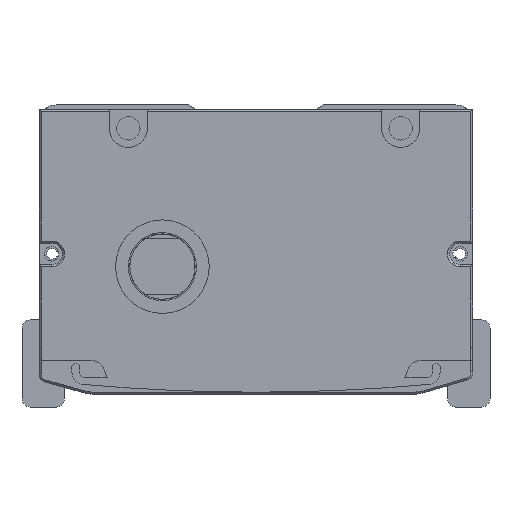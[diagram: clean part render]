
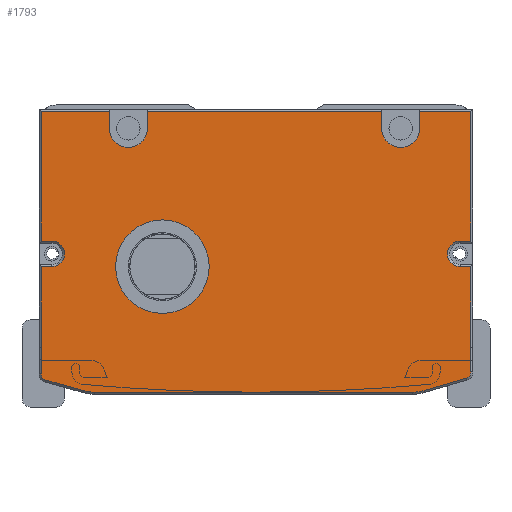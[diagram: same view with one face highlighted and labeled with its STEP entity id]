
A CAD part, front view. The second image highlights one B-rep face of the part: STEP entity #1793.
In plain terms, the highlighted planar face has unit normal (0, -1, 0).
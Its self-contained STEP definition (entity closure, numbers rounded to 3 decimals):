
#1050=FACE_BOUND('',#3703,.T.);
#1051=FACE_BOUND('',#3704,.T.);
#1793=ADVANCED_FACE('',(#1050,#1051),#2526,.F.);
#2526=PLANE('',#14938);
#3703=EDGE_LOOP('',(#6699));
#3704=EDGE_LOOP('',(#6700,#6701,#6702,#6703,#6704,#6705,#6706,#6707,#6708,
#6709,#6710,#6711,#6712,#6713,#6714,#6715,#6716,#6717,#6718,#6719,#6720,
#6721,#6722,#6723,#6724,#6725,#6726,#6727));
#4757=CIRCLE('',#14849,3.);
#4760=CIRCLE('',#14857,3.);
#4763=CIRCLE('',#14869,1.5);
#4765=CIRCLE('',#14873,9.5);
#4767=CIRCLE('',#14877,9.5);
#4769=CIRCLE('',#14881,1.5);
#4774=CIRCLE('',#14896,4.5);
#4778=CIRCLE('',#14902,4.5);
#4779=CIRCLE('',#14911,11.);
#6699=ORIENTED_EDGE('',*,*,#11324,.F.);
#6700=ORIENTED_EDGE('',*,*,#11218,.T.);
#6701=ORIENTED_EDGE('',*,*,#11114,.T.);
#6702=ORIENTED_EDGE('',*,*,#11305,.T.);
#6703=ORIENTED_EDGE('',*,*,#11118,.T.);
#6704=ORIENTED_EDGE('',*,*,#11353,.T.);
#6705=ORIENTED_EDGE('',*,*,#11124,.T.);
#6706=ORIENTED_EDGE('',*,*,#11301,.T.);
#6707=ORIENTED_EDGE('',*,*,#11128,.T.);
#6708=ORIENTED_EDGE('',*,*,#11354,.T.);
#6709=ORIENTED_EDGE('',*,*,#11222,.T.);
#6710=ORIENTED_EDGE('',*,*,#11228,.T.);
#6711=ORIENTED_EDGE('',*,*,#11231,.T.);
#6712=ORIENTED_EDGE('',*,*,#11234,.T.);
#6713=ORIENTED_EDGE('',*,*,#11236,.T.);
#6714=ORIENTED_EDGE('',*,*,#11266,.T.);
#6715=ORIENTED_EDGE('',*,*,#11270,.T.);
#6716=ORIENTED_EDGE('',*,*,#11273,.T.);
#6717=ORIENTED_EDGE('',*,*,#11276,.T.);
#6718=ORIENTED_EDGE('',*,*,#11279,.T.);
#6719=ORIENTED_EDGE('',*,*,#11282,.T.);
#6720=ORIENTED_EDGE('',*,*,#11285,.T.);
#6721=ORIENTED_EDGE('',*,*,#11287,.T.);
#6722=ORIENTED_EDGE('',*,*,#11264,.T.);
#6723=ORIENTED_EDGE('',*,*,#11254,.T.);
#6724=ORIENTED_EDGE('',*,*,#11251,.T.);
#6725=ORIENTED_EDGE('',*,*,#11248,.T.);
#6726=ORIENTED_EDGE('',*,*,#11245,.T.);
#6727=ORIENTED_EDGE('',*,*,#11240,.T.);
#9613=VERTEX_POINT('',#22049);
#9614=VERTEX_POINT('',#22051);
#9617=VERTEX_POINT('',#22058);
#9618=VERTEX_POINT('',#22060);
#9623=VERTEX_POINT('',#22071);
#9624=VERTEX_POINT('',#22073);
#9627=VERTEX_POINT('',#22080);
#9628=VERTEX_POINT('',#22082);
#9686=VERTEX_POINT('',#22268);
#9689=VERTEX_POINT('',#22276);
#9690=VERTEX_POINT('',#22277);
#9695=VERTEX_POINT('',#22288);
#9697=VERTEX_POINT('',#22294);
#9698=VERTEX_POINT('',#22299);
#9700=VERTEX_POINT('',#22305);
#9703=VERTEX_POINT('',#22313);
#9705=VERTEX_POINT('',#22319);
#9707=VERTEX_POINT('',#22325);
#9709=VERTEX_POINT('',#22331);
#9711=VERTEX_POINT('',#22337);
#9718=VERTEX_POINT('',#22361);
#9719=VERTEX_POINT('',#22365);
#9722=VERTEX_POINT('',#22372);
#9724=VERTEX_POINT('',#22378);
#9726=VERTEX_POINT('',#22384);
#9728=VERTEX_POINT('',#22390);
#9730=VERTEX_POINT('',#22396);
#9732=VERTEX_POINT('',#22402);
#9744=VERTEX_POINT('',#22475);
#11114=EDGE_CURVE('',#9614,#9613,#12787,.T.);
#11118=EDGE_CURVE('',#9618,#9617,#12791,.T.);
#11124=EDGE_CURVE('',#9624,#9623,#12797,.T.);
#11128=EDGE_CURVE('',#9628,#9627,#12801,.T.);
#11218=EDGE_CURVE('',#9686,#9614,#12874,.T.);
#11222=EDGE_CURVE('',#9689,#9690,#12878,.T.);
#11228=EDGE_CURVE('',#9690,#9695,#12884,.T.);
#11231=EDGE_CURVE('',#9695,#9697,#4757,.T.);
#11234=EDGE_CURVE('',#9697,#9698,#12888,.T.);
#11236=EDGE_CURVE('',#9698,#9700,#12890,.T.);
#11240=EDGE_CURVE('',#9703,#9686,#12894,.T.);
#11245=EDGE_CURVE('',#9705,#9703,#12899,.T.);
#11248=EDGE_CURVE('',#9707,#9705,#4760,.T.);
#11251=EDGE_CURVE('',#9709,#9707,#12903,.T.);
#11254=EDGE_CURVE('',#9711,#9709,#12906,.T.);
#11264=EDGE_CURVE('',#9718,#9711,#12914,.T.);
#11266=EDGE_CURVE('',#9700,#9719,#12916,.T.);
#11270=EDGE_CURVE('',#9719,#9722,#4763,.T.);
#11273=EDGE_CURVE('',#9722,#9724,#12921,.T.);
#11276=EDGE_CURVE('',#9724,#9726,#4765,.T.);
#11279=EDGE_CURVE('',#9726,#9728,#12925,.T.);
#11282=EDGE_CURVE('',#9728,#9730,#4767,.T.);
#11285=EDGE_CURVE('',#9730,#9732,#12929,.T.);
#11287=EDGE_CURVE('',#9732,#9718,#4769,.T.);
#11301=EDGE_CURVE('',#9623,#9628,#4774,.T.);
#11305=EDGE_CURVE('',#9613,#9618,#4778,.T.);
#11324=EDGE_CURVE('',#9744,#9744,#4779,.T.);
#11353=EDGE_CURVE('',#9617,#9624,#12980,.T.);
#11354=EDGE_CURVE('',#9627,#9689,#12981,.T.);
#12787=LINE('',#22050,#13731);
#12791=LINE('',#22059,#13735);
#12797=LINE('',#22072,#13741);
#12801=LINE('',#22081,#13745);
#12874=LINE('',#22267,#13818);
#12878=LINE('',#22275,#13822);
#12884=LINE('',#22289,#13828);
#12888=LINE('',#22301,#13832);
#12890=LINE('',#22304,#13834);
#12894=LINE('',#22312,#13838);
#12899=LINE('',#22322,#13843);
#12903=LINE('',#22334,#13847);
#12906=LINE('',#22340,#13850);
#12914=LINE('',#22360,#13858);
#12916=LINE('',#22364,#13860);
#12921=LINE('',#22379,#13865);
#12925=LINE('',#22391,#13869);
#12929=LINE('',#22403,#13873);
#12980=LINE('',#22537,#13924);
#12981=LINE('',#22538,#13925);
#13731=VECTOR('',#17131,1.);
#13735=VECTOR('',#17137,1.);
#13741=VECTOR('',#17145,1.);
#13745=VECTOR('',#17151,1.);
#13818=VECTOR('',#17318,1.);
#13822=VECTOR('',#17324,1.);
#13828=VECTOR('',#17332,1.);
#13832=VECTOR('',#17344,1.);
#13834=VECTOR('',#17348,1.);
#13838=VECTOR('',#17354,1.);
#13843=VECTOR('',#17361,1.);
#13847=VECTOR('',#17373,1.);
#13850=VECTOR('',#17378,1.);
#13858=VECTOR('',#17400,1.);
#13860=VECTOR('',#17404,1.);
#13865=VECTOR('',#17417,1.);
#13869=VECTOR('',#17429,1.);
#13873=VECTOR('',#17441,1.);
#13924=VECTOR('',#17608,1.);
#13925=VECTOR('',#17609,1.);
#14849=AXIS2_PLACEMENT_3D('',#22295,#17337,#17338);
#14857=AXIS2_PLACEMENT_3D('',#22328,#17367,#17368);
#14869=AXIS2_PLACEMENT_3D('',#22373,#17410,#17411);
#14873=AXIS2_PLACEMENT_3D('',#22385,#17422,#17423);
#14877=AXIS2_PLACEMENT_3D('',#22397,#17434,#17435);
#14881=AXIS2_PLACEMENT_3D('',#22406,#17445,#17446);
#14896=AXIS2_PLACEMENT_3D('',#22432,#17484,#17485);
#14902=AXIS2_PLACEMENT_3D('',#22440,#17496,#17497);
#14911=AXIS2_PLACEMENT_3D('',#22474,#17532,#17533);
#14938=AXIS2_PLACEMENT_3D('',#22539,#17610,#17611);
#17131=DIRECTION('',(0.,0.,-1.));
#17137=DIRECTION('',(0.,0.,1.));
#17145=DIRECTION('',(0.,0.,-1.));
#17151=DIRECTION('',(0.,0.,1.));
#17318=DIRECTION('',(-1.,0.,0.));
#17324=DIRECTION('',(0.,0.,-1.));
#17332=DIRECTION('',(1.,0.,0.));
#17337=DIRECTION('',(0.,1.,0.));
#17338=DIRECTION('',(0.,0.,1.));
#17344=DIRECTION('',(-1.,0.,0.));
#17348=DIRECTION('',(0.,0.,-1.));
#17354=DIRECTION('',(0.,0.,1.));
#17361=DIRECTION('',(1.,0.,0.));
#17367=DIRECTION('',(0.,1.,0.));
#17368=DIRECTION('',(0.,0.,1.));
#17373=DIRECTION('',(-1.,0.,0.));
#17378=DIRECTION('',(0.,0.,1.));
#17400=DIRECTION('',(0.,0.,1.));
#17404=DIRECTION('',(0.,0.,-1.));
#17410=DIRECTION('',(0.,-1.,0.));
#17411=DIRECTION('',(0.,0.,1.));
#17417=DIRECTION('',(0.963,0.,-0.269));
#17422=DIRECTION('',(0.,-1.,0.));
#17423=DIRECTION('',(0.,0.,1.));
#17429=DIRECTION('',(1.,0.,0.));
#17434=DIRECTION('',(0.,-1.,0.));
#17435=DIRECTION('',(0.,0.,1.));
#17441=DIRECTION('',(0.959,0.,0.282));
#17445=DIRECTION('',(0.,-1.,0.));
#17446=DIRECTION('',(0.,0.,1.));
#17484=DIRECTION('',(0.,1.,0.));
#17485=DIRECTION('',(0.,0.,1.));
#17496=DIRECTION('',(0.,1.,0.));
#17497=DIRECTION('',(0.,0.,1.));
#17532=DIRECTION('',(0.,-1.,0.));
#17533=DIRECTION('',(0.,0.,1.));
#17608=DIRECTION('',(-1.,0.,0.));
#17609=DIRECTION('',(-1.,0.,0.));
#17610=DIRECTION('',(0.,1.,0.));
#17611=DIRECTION('',(1.,0.,0.));
#22049=CARTESIAN_POINT('',(35.308,-607.5,-5.5));
#22050=CARTESIAN_POINT('',(35.308,-607.5,-1.));
#22051=CARTESIAN_POINT('',(35.308,-607.5,-1.5));
#22058=CARTESIAN_POINT('',(26.308,-607.5,-1.5));
#22059=CARTESIAN_POINT('',(26.308,-607.5,-1.));
#22060=CARTESIAN_POINT('',(26.308,-607.5,-5.5));
#22071=CARTESIAN_POINT('',(-28.692,-607.5,-5.5));
#22072=CARTESIAN_POINT('',(-28.692,-607.5,-1.));
#22073=CARTESIAN_POINT('',(-28.692,-607.5,-1.5));
#22080=CARTESIAN_POINT('',(-37.692,-607.5,-1.5));
#22081=CARTESIAN_POINT('',(-37.692,-607.5,-1.));
#22082=CARTESIAN_POINT('',(-37.692,-607.5,-5.5));
#22267=CARTESIAN_POINT('',(-53.692,-607.5,-1.5));
#22268=CARTESIAN_POINT('',(47.308,-607.5,-1.5));
#22275=CARTESIAN_POINT('',(-53.692,-607.5,-32.5));
#22276=CARTESIAN_POINT('',(-53.692,-607.5,-1.5));
#22277=CARTESIAN_POINT('',(-53.692,-607.5,-32.));
#22288=CARTESIAN_POINT('',(-51.192,-607.5,-32.));
#22289=CARTESIAN_POINT('',(-3.192,-607.5,-32.));
#22294=CARTESIAN_POINT('',(-51.192,-607.5,-38.));
#22295=CARTESIAN_POINT('',(-51.192,-607.5,-35.));
#22299=CARTESIAN_POINT('',(-53.692,-607.5,-38.));
#22301=CARTESIAN_POINT('',(-3.192,-607.5,-38.));
#22304=CARTESIAN_POINT('',(-53.692,-607.5,-57.));
#22305=CARTESIAN_POINT('',(-53.692,-607.5,-57.));
#22312=CARTESIAN_POINT('',(47.308,-607.5,-1.5));
#22313=CARTESIAN_POINT('',(47.308,-607.5,-32.));
#22319=CARTESIAN_POINT('',(44.808,-607.5,-32.));
#22322=CARTESIAN_POINT('',(-3.192,-607.5,-32.));
#22325=CARTESIAN_POINT('',(44.808,-607.5,-38.));
#22328=CARTESIAN_POINT('',(44.808,-607.5,-35.));
#22331=CARTESIAN_POINT('',(47.308,-607.5,-38.));
#22334=CARTESIAN_POINT('',(-3.192,-607.5,-38.));
#22337=CARTESIAN_POINT('',(47.308,-607.5,-57.));
#22340=CARTESIAN_POINT('',(47.308,-607.5,-37.5));
#22360=CARTESIAN_POINT('',(47.308,-607.5,-37.5));
#22361=CARTESIAN_POINT('',(47.308,-607.5,-62.758));
#22364=CARTESIAN_POINT('',(-53.692,-607.5,-59.712));
#22365=CARTESIAN_POINT('',(-53.692,-607.5,-63.212));
#22372=CARTESIAN_POINT('',(-52.596,-607.5,-64.657));
#22373=CARTESIAN_POINT('',(-52.192,-607.5,-63.212));
#22378=CARTESIAN_POINT('',(-43.674,-607.5,-67.15));
#22379=CARTESIAN_POINT('',(-43.674,-607.5,-67.15));
#22384=CARTESIAN_POINT('',(-41.118,-607.5,-67.5));
#22385=CARTESIAN_POINT('',(-41.118,-607.5,-58.));
#22390=CARTESIAN_POINT('',(33.631,-607.5,-67.5));
#22391=CARTESIAN_POINT('',(33.631,-607.5,-67.5));
#22396=CARTESIAN_POINT('',(36.312,-607.5,-67.114));
#22397=CARTESIAN_POINT('',(33.631,-607.5,-58.));
#22402=CARTESIAN_POINT('',(46.231,-607.5,-64.197));
#22403=CARTESIAN_POINT('',(46.231,-607.5,-64.197));
#22406=CARTESIAN_POINT('',(45.808,-607.5,-62.758));
#22432=CARTESIAN_POINT('',(-33.192,-607.5,-5.5));
#22440=CARTESIAN_POINT('',(30.808,-607.5,-5.5));
#22474=CARTESIAN_POINT('',(-25.192,-607.5,-38.));
#22475=CARTESIAN_POINT('',(-25.192,-607.5,-27.));
#22537=CARTESIAN_POINT('',(-53.692,-607.5,-1.5));
#22538=CARTESIAN_POINT('',(-53.692,-607.5,-1.5));
#22539=CARTESIAN_POINT('',(-3.192,-607.5,-1.));
